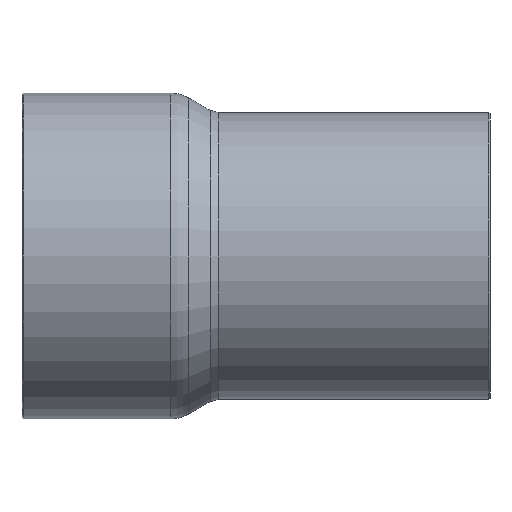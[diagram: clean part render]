
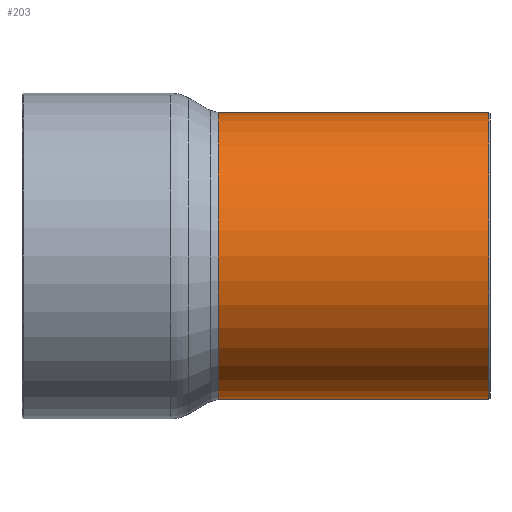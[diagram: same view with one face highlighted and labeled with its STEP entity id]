
A CAD part, front view. The second image highlights one B-rep face of the part: STEP entity #203.
In plain terms, the highlighted cylindrical face has radius 26.985 mm (diameter 53.97 mm), a full revolution.
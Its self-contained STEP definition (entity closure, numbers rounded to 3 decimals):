
#141=CARTESIAN_POINT('',(46.8,26.985,0.));
#142=VERTEX_POINT('',#141);
#143=CARTESIAN_POINT('',(46.8,0.0,0.0));
#144=DIRECTION('',(1.0,0.0,0.0));
#145=DIRECTION('',(0.0,-1.0,0.0));
#146=AXIS2_PLACEMENT_3D('',#143,#144,#145);
#147=CIRCLE('',#146,26.985);
#148=EDGE_CURVE('',#142,#142,#147,.T.);
#184=CARTESIAN_POINT('',(21.434,0.0,0.0));
#185=DIRECTION('',(1.0,0.0,0.0));
#186=DIRECTION('',(0.0,1.0,0.0));
#187=AXIS2_PLACEMENT_3D('',#184,#185,#186);
#188=CYLINDRICAL_SURFACE('',#187,26.985);
#189=CARTESIAN_POINT('',(-4.132,26.985,0.0));
#190=VERTEX_POINT('',#189);
#191=CARTESIAN_POINT('',(-4.132,0.0,0.0));
#192=DIRECTION('',(1.0,0.0,0.0));
#193=DIRECTION('',(0.0,1.0,0.0));
#194=AXIS2_PLACEMENT_3D('',#191,#192,#193);
#195=CIRCLE('',#194,26.985);
#196=EDGE_CURVE('',#190,#190,#195,.T.);
#197=ORIENTED_EDGE('',*,*,#196,.T.);
#198=EDGE_LOOP('',(#197));
#199=FACE_OUTER_BOUND('',#198,.T.);
#200=ORIENTED_EDGE('',*,*,#148,.F.);
#201=EDGE_LOOP('',(#200));
#202=FACE_BOUND('',#201,.T.);
#203=ADVANCED_FACE('',(#199,#202),#188,.T.);
